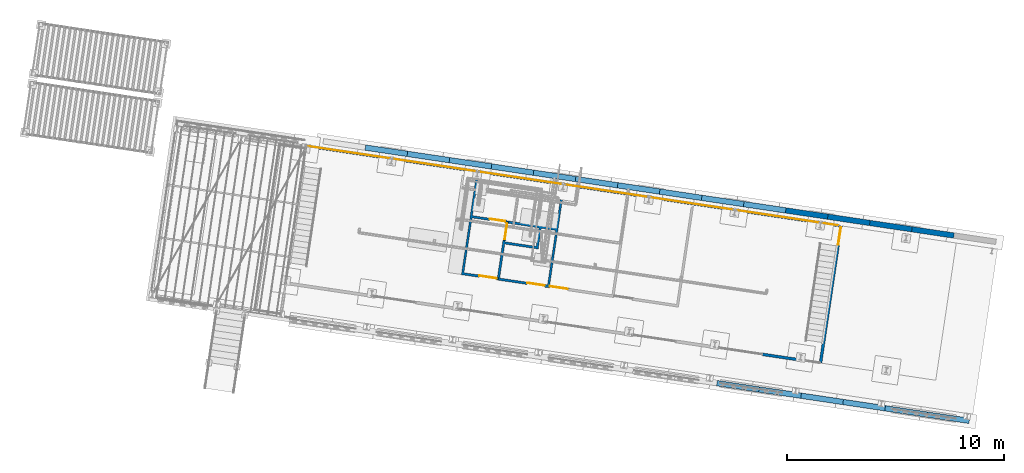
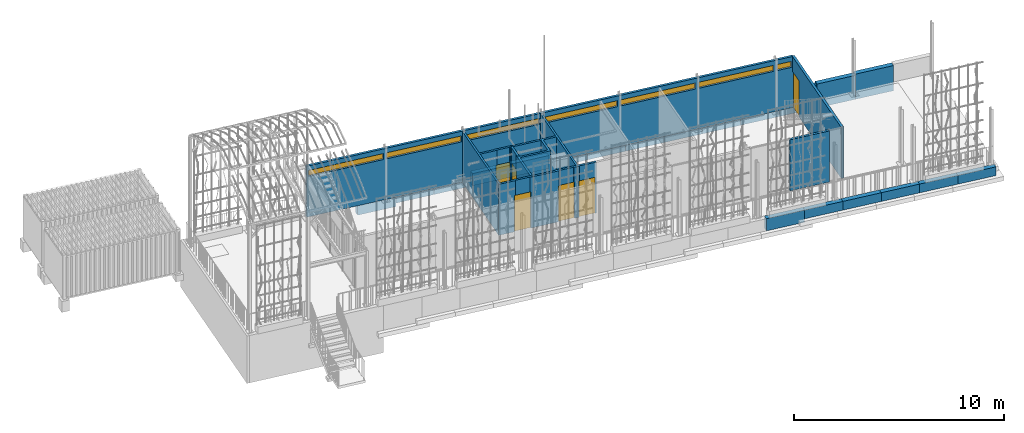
# One storey, part 130 of 142: 25 walls, 7 windows, 6 doors, 16 openings, 1 element without a shape of its own.
"""IFC4 building model written with IfcOpenShell, lengths in metres."""

from ifc_helpers import new_model, si_unit, direction, frame, origin_with_axes, place, context, subcontext, project, spatial, polyline, outline, extrude, material, layer, layer_set, constituent, constituent_set, element, fill, aggregate, save


model = new_model("IFC4")

# Units and contexts
model_context = context("Model", 3, precision=1e-05, world=origin_with_axes(), true_north=direction((0.0, 1.0)))
body_context = subcontext(model_context, "Body", "Model", "MODEL_VIEW")
ifc_project = project(units=[si_unit("VOLUMEUNIT", "CUBIC_METRE"), si_unit("LENGTHUNIT", "METRE"), si_unit("AREAUNIT", "SQUARE_METRE")], contexts=[model_context])

# Site, building, storey
site_placement = place(None, origin_with_axes())
site = spatial("IfcSite", under=ifc_project, at=site_placement, Name="Lares · Rua das Mercês · artigo 4771")
building_placement = place(site_placement, frame((12.0, 10.2, 13.9), z_axis=(0.0, 0.0, 1.0), x_axis=(0.989015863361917, -0.147809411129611, 0.0)))
building = spatial("IfcBuilding", under=site, at=building_placement, Name="Casa Sobreposta")
storey_placement = place(building_placement, origin_with_axes())
storey = spatial("IfcBuildingStorey", under=building, at=storey_placement, Name="00 · Habitação e estacionamento", Elevation=13.9)

# Wall, openings, doors
ifc_material_1 = material(Name="OSB", Category="wood")
ifc_constituent_1 = constituent(ifc_material_1, Name="osb")
ifc_material_2 = material(Name="Lã mineral / Mineralwolle 2", Category="mineral wool")
ifc_constituent_2 = constituent(ifc_material_2, Name="wool")
ifc_constituent_set_1 = constituent_set(constituents=[ifc_constituent_1, ifc_constituent_2], Name="OSB22 / lã mineral / OSB22")
wall_1_placement = place(storey_placement, origin_with_axes())
wall_1 = element("IfcWall", 1, at=wall_1_placement, inside=storey, material=ifc_constituent_set_1, Name="Divisória 1 · OSB 22 mm nas duas faces", context=body_context, shape_type="SweptSolid", body=[
    extrude(outline(polyline([(8.05999999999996, 6.27299999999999), (8.05999999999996, 4.35299999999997), (8.80454037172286, 4.35299999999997), (8.80454322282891, 4.37255471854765), (9.67462900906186, 4.37242785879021), (9.67461809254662, 4.29755537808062), (9.74955631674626, 4.29756574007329), (9.74967661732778, 3.42754853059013), (9.63967661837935, 3.4275333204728), (9.63956117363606, 4.26243297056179), (8.90999999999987, 4.26253934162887), (8.90999999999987, 4.24299999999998), (8.05999999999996, 4.24299999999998), (8.05999999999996, 1.68999999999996), (8.70456930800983, 1.68999999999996), (8.70457262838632, 1.71008556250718), (9.6746647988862, 1.70992519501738), (9.67464661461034, 1.59992519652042), (8.80999999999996, 1.60006813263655), (8.80999999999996, 1.57999999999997), (7.96000000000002, 1.57999999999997), (7.96000000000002, 6.27299999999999), (8.05999999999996, 6.27299999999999)]), holes=[polyline([(7.98200000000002, 1.60199999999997), (8.78799999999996, 1.60199999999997), (8.78799999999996, 1.62207176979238), (9.65265025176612, 1.62192883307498), (9.65266116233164, 1.68792883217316), (8.72656899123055, 1.68808192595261), (8.72656567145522, 1.66799999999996), (8.03799999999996, 1.66799999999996), (8.03799999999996, 4.26499999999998), (8.88799999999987, 4.26499999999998), (8.88799999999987, 4.28454254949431), (9.65261617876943, 4.28443106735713), (9.65262580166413, 4.35043106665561), (8.8265400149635, 4.35055151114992), (8.82653716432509, 4.33099999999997), (8.03799999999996, 4.33099999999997), (8.03799999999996, 6.25099999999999), (7.98200000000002, 6.25099999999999), (7.98200000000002, 1.60199999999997)]), polyline([(9.66167357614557, 3.44953636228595), (9.72767357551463, 3.44954548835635), (9.72755935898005, 4.27556269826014), (9.661559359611, 4.27555357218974), (9.66167357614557, 3.44953636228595)])]), origin_with_axes(), (0.0, 0.0, 1.0), 2.968),
    extrude(outline(polyline([(7.98200000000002, 6.25099999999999), (8.03799999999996, 6.25099999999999), (8.03799999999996, 4.33099999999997), (8.82653716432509, 4.33099999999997), (8.8265400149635, 4.35055151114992), (9.65262580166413, 4.35043106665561), (9.65261617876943, 4.28443106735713), (8.88799999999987, 4.28454254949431), (8.88799999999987, 4.26499999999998), (8.03799999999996, 4.26499999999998), (8.03799999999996, 1.66799999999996), (8.72656567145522, 1.66799999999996), (8.72656899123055, 1.68808192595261), (9.65266116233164, 1.68792883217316), (9.65265025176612, 1.62192883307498), (8.78799999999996, 1.62207176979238), (8.78799999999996, 1.60199999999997), (7.98200000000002, 1.60199999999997), (7.98200000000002, 6.25099999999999)])), origin_with_axes(), (0.0, 0.0, 1.0), 2.968),
    extrude(outline(polyline([(9.661559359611, 4.27555357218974), (9.72755935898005, 4.27556269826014), (9.72767357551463, 3.44954548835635), (9.66167357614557, 3.44953636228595), (9.661559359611, 4.27555357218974)])), origin_with_axes(), (0.0, 0.0, 1.0), 2.968),
])
opening_1_placement = place(wall_1_placement, origin_with_axes())
opening_1 = element("IfcOpeningElement", 2, at=opening_1_placement, cuts=wall_1, PredefinedType="OPENING", context=body_context, shape_type="SweptSolid", body=[
    extrude(outline(polyline([(8.87451187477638, 4.15754451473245), (8.87455853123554, 4.47754451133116), (9.60464431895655, 4.4774380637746), (9.60459766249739, 4.15743806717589), (8.87451187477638, 4.15754451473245)])), origin_with_axes(), (0.0, 0.0, 1.0), 2.1),
])
opening_2_placement = place(wall_1_placement, origin_with_axes())
opening_2 = element("IfcOpeningElement", 3, at=opening_2_placement, cuts=wall_1, PredefinedType="OPENING", context=body_context, shape_type="SweptSolid", body=[
    extrude(outline(polyline([(8.77453708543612, 1.49507399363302), (8.77458998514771, 1.81507398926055), (9.60468215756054, 1.81493676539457), (9.60462925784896, 1.49493676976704), (8.77453708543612, 1.49507399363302)])), origin_with_axes(), (0.0, 0.0, 1.0), 2.1),
])
opening_3_placement = place(wall_1_placement, origin_with_axes())
opening_3 = element("IfcOpeningElement", 4, at=opening_3_placement, cuts=wall_1, PredefinedType="OPENING", context=body_context, shape_type="SweptSolid", body=[
    extrude(outline(polyline([(9.85466693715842, 3.49756304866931), (9.53466694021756, 3.49751880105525), (9.5345659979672, 4.22753601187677), (9.85456599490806, 4.22758025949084), (9.85466693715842, 3.49756304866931)])), origin_with_axes(), (0.0, 0.0, 1.0), 2.1),
])
door_1_placement = place(storey_placement, origin_with_axes())
door_1 = element("IfcDoor", 5, at=door_1_placement, inside=storey, material=ifc_material_1, Name="Porta interior 3", OperationType="SINGLE_SWING_LEFT", OverallHeight=2.1, OverallWidth=0.730085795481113, PredefinedType="DOOR", context=body_context, shape_type="SweptSolid", body=[
    extrude(outline(polyline([(8.87453265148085, 4.30004451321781), (8.87453775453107, 4.3350445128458), (9.60462354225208, 4.33493806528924), (9.60461843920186, 4.29993806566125), (8.87453265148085, 4.30004451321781)])), origin_with_axes(), (0.0, 0.0, 1.0), 2.1),
])
fill(opening_1, door_1)
door_2_placement = place(storey_placement, origin_with_axes())
door_2 = element("IfcDoor", 6, at=door_2_placement, inside=storey, material=ifc_material_1, Name="Porta interior 4", OperationType="SINGLE_SWING_LEFT", OverallHeight=2.1, OverallWidth=0.830092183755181, PredefinedType="DOOR", context=body_context, shape_type="SweptSolid", body=[
    extrude(outline(polyline([(8.77456064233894, 1.6375739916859), (8.7745664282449, 1.67257399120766), (9.60465860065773, 1.67243676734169), (9.60465281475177, 1.63743676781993), (8.77456064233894, 1.6375739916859)])), origin_with_axes(), (0.0, 0.0, 1.0), 2.1),
])
fill(opening_2, door_2)
door_3_placement = place(storey_placement, origin_with_axes())
door_3 = element("IfcDoor", 7, at=door_3_placement, inside=storey, material=ifc_material_1, Name="Porta interior 6", OperationType="SINGLE_SWING_LEFT", OverallHeight=2.1, OverallWidth=0.730017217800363, PredefinedType="DOOR", context=body_context, shape_type="SweptSolid", body=[
    extrude(outline(polyline([(9.71216693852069, 3.49754334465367), (9.67716693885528, 3.49753850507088), (9.67706599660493, 4.22755571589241), (9.71206599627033, 4.2275605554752), (9.71216693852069, 3.49754334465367)])), origin_with_axes(), (0.0, 0.0, 1.0), 2.1),
])
fill(opening_3, door_3)

ifc_constituent_3 = constituent(ifc_material_1, Name="osb")
ifc_constituent_4 = constituent(ifc_material_2, Name="wool")
ifc_constituent_set_2 = constituent_set(constituents=[ifc_constituent_3, ifc_constituent_4], Name="OSB22 / lã mineral / OSB22")
wall_2_placement = place(storey_placement, origin_with_axes())
wall_2 = element("IfcWall", 8, at=wall_2_placement, inside=storey, material=ifc_constituent_set_2, Name="Divisória 2 · OSB 22 mm nas duas faces", context=body_context, shape_type="SweptSolid", body=[
    extrude(outline(polyline([(9.72999999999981, 3.383), (11.1799999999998, 3.383), (11.1799999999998, 4.24299999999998), (9.72999999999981, 4.24299999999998), (9.72999999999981, 4.19299999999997), (9.61999999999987, 4.19299999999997), (9.61999999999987, 4.24299999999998), (9.56999999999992, 4.24299999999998), (9.56999999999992, 4.35299999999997), (11.96, 4.35299999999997), (11.96, 6.27299999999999), (12.06, 6.27299999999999), (12.06, 1.70993390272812), (12.9746138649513, 1.7100856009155), (12.974632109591, 1.60008560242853), (12.1099999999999, 1.59994219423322), (12.1099999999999, 1.57999999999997), (11.8099999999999, 1.57999999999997), (11.8099999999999, 1.59995696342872), (11.05, 1.60006879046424), (11.05, 1.57999999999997), (9.56999999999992, 1.57999999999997), (9.56999999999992, 1.68999999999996), (9.61999999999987, 1.68999999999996), (9.61999999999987, 3.53299999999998), (9.72999999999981, 3.53299999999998), (9.72999999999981, 3.383)]), holes=[polyline([(9.64199999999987, 3.51099999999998), (9.64199999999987, 1.66799999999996), (9.59199999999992, 1.66799999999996), (9.59199999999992, 1.60199999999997), (11.028, 1.60199999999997), (11.028, 1.62207202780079), (11.8319999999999, 1.62195372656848), (11.8319999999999, 1.60199999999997), (12.0879999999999, 1.60199999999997), (12.0879999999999, 1.62193854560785), (12.9526284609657, 1.62208195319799), (12.9526175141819, 1.68808195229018), (12.038, 1.68793025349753), (12.038, 6.25099999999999), (11.982, 6.25099999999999), (11.982, 4.33099999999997), (9.59199999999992, 4.33099999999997), (9.59199999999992, 4.26499999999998), (9.64199999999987, 4.26499999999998), (9.64199999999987, 4.21499999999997), (9.70799999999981, 4.21499999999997), (9.70799999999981, 4.26499999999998), (11.2019999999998, 4.26499999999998), (11.2019999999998, 3.361), (9.70799999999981, 3.361), (9.70799999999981, 3.51099999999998), (9.64199999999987, 3.51099999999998)])]), origin_with_axes(), (0.0, 0.0, 1.0), 2.968),
    extrude(outline(polyline([(10.9666589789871, 1.66799999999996), (9.70799999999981, 1.66799999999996), (9.70799999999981, 3.29500000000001), (11.268, 3.29500000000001), (11.268, 4.26499999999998), (11.982, 4.26499999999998), (11.982, 1.66799999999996), (11.892736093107, 1.66799999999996), (11.8927390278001, 1.68794479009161), (10.9666619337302, 1.68808105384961), (10.9666589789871, 1.66799999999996)]), holes=[polyline([(11.96, 4.24299999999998), (11.29, 4.24299999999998), (11.29, 3.27300000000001), (9.72999999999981, 3.27300000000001), (9.72999999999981, 1.68999999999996), (10.9446622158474, 1.68999999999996), (10.9446651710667, 1.71008429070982), (11.9147422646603, 1.70994155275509), (11.9147393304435, 1.68999999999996), (11.96, 1.68999999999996), (11.96, 4.24299999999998)])]), origin_with_axes(), (0.0, 0.0, 1.0), 2.968),
    extrude(outline(polyline([(9.70799999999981, 3.51099999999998), (9.70799999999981, 3.361), (11.2019999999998, 3.361), (11.2019999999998, 4.26499999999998), (9.70799999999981, 4.26499999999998), (9.70799999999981, 4.21499999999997), (9.64199999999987, 4.21499999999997), (9.64199999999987, 4.26499999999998), (9.59199999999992, 4.26499999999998), (9.59199999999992, 4.33099999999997), (11.982, 4.33099999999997), (11.982, 6.25099999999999), (12.038, 6.25099999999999), (12.038, 1.68793025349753), (12.9526175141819, 1.68808195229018), (12.9526284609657, 1.62208195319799), (12.0879999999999, 1.62193854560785), (12.0879999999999, 1.60199999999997), (11.8319999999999, 1.60199999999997), (11.8319999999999, 1.62195372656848), (11.028, 1.62207202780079), (11.028, 1.60199999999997), (9.59199999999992, 1.60199999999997), (9.59199999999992, 1.66799999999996), (9.64199999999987, 1.66799999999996), (9.64199999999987, 3.51099999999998), (9.70799999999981, 3.51099999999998)]), holes=[polyline([(10.9666619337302, 1.68808105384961), (11.8927390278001, 1.68794479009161), (11.892736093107, 1.66799999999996), (11.982, 1.66799999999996), (11.982, 4.26499999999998), (11.268, 4.26499999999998), (11.268, 3.29500000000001), (9.70799999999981, 3.29500000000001), (9.70799999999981, 1.66799999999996), (10.9666589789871, 1.66799999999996), (10.9666619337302, 1.68808105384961)])]), origin_with_axes(), (0.0, 0.0, 1.0), 2.968),
])
opening_4_placement = place(wall_2_placement, origin_with_axes())
opening_4 = element("IfcOpeningElement", 9, at=opening_4_placement, cuts=wall_2, PredefinedType="OPENING", context=body_context, shape_type="SweptSolid", body=[
    extrude(outline(polyline([(12.9045964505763, 1.81507398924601), (12.9046495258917, 1.49507399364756), (12.0745568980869, 1.49493631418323), (12.0745038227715, 1.81493630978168), (12.9045964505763, 1.81507398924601)])), origin_with_axes(), (0.0, 0.0, 1.0), 2.1),
])
opening_5_placement = place(wall_2_placement, origin_with_axes())
element("IfcOpeningElement", 10, at=opening_5_placement, cuts=wall_2, PredefinedType="OPENING", context=body_context, shape_type="SweptSolid", body=[
    extrude(outline(polyline([(8.87451187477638, 4.15754451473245), (8.87455853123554, 4.47754451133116), (9.60464431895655, 4.4774380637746), (9.60459766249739, 4.15743806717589), (8.87451187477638, 4.15754451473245)])), origin_with_axes(), (0.0, 0.0, 1.0), 2.1),
])
opening_6_placement = place(wall_2_placement, origin_with_axes())
element("IfcOpeningElement", 11, at=opening_6_placement, cuts=wall_2, PredefinedType="OPENING", context=body_context, shape_type="SweptSolid", body=[
    extrude(outline(polyline([(8.77453708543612, 1.49507399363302), (8.77458998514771, 1.81507398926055), (9.60468215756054, 1.81493676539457), (9.60462925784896, 1.49493676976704), (8.77453708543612, 1.49507399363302)])), origin_with_axes(), (0.0, 0.0, 1.0), 2.1),
])
opening_7_placement = place(wall_2_placement, origin_with_axes())
opening_7 = element("IfcOpeningElement", 12, at=opening_7_placement, cuts=wall_2, Name="Vão porta interior 5.1", PredefinedType="OPENING", context=body_context, shape_type="SweptSolid", body=[
    extrude(outline(polyline([(11.0146335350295, 1.49507399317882), (11.0146806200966, 1.81507398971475), (11.8447577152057, 1.81495185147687), (11.8447106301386, 1.49495185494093), (11.0146335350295, 1.49507399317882)])), origin_with_axes(), (0.0, 0.0, 1.0), 2.1),
])
opening_8_placement = place(wall_2_placement, origin_with_axes())
element("IfcOpeningElement", 13, at=opening_8_placement, cuts=wall_2, PredefinedType="OPENING", context=body_context, shape_type="SweptSolid", body=[
    extrude(outline(polyline([(9.85466693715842, 3.49756304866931), (9.53466694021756, 3.49751880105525), (9.5345659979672, 4.22753601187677), (9.85456599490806, 4.22758025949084), (9.85466693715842, 3.49756304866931)])), origin_with_axes(), (0.0, 0.0, 1.0), 2.1),
])
door_4_placement = place(storey_placement, origin_with_axes())
door_4 = element("IfcDoor", 14, at=door_4_placement, inside=storey, material=ifc_material_1, Name="Porta interior 2", OperationType="SINGLE_SWING_LEFT", OverallHeight=2.1, OverallWidth=0.830092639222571, PredefinedType="DOOR", context=body_context, shape_type="SweptSolid", body=[
    extrude(outline(polyline([(12.9046200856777, 1.67257399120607), (12.9046258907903, 1.63757399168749), (12.0745332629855, 1.63743631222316), (12.0745274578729, 1.67243631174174), (12.9046200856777, 1.67257399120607)])), origin_with_axes(), (0.0, 0.0, 1.0), 2.1),
])
fill(opening_4, door_4)
door_5_placement = place(storey_placement, origin_with_axes())
door_5 = element("IfcDoor", 15, at=door_5_placement, inside=storey, material=ifc_material_1, Name="Porta interior 5", OperationType="SINGLE_SWING_LEFT", OverallHeight=2.1, OverallWidth=0.830077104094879, PredefinedType="DOOR", context=body_context, shape_type="SweptSolid", body=[
    extrude(outline(polyline([(11.0146545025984, 1.63757399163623), (11.0146596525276, 1.67257399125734), (11.8447367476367, 1.67245185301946), (11.8447315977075, 1.63745185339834), (11.0146545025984, 1.63757399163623)])), origin_with_axes(), (0.0, 0.0, 1.0), 2.1),
])
fill(opening_7, door_5)

# Wall, openings, windows
ifc_material_3 = material(Name="Aço pintado / Stahl lackiert", Category="steel")
ifc_layer_1 = layer(ifc_material_3, 0.005, Name="steel")
ifc_layer_2 = layer(ifc_material_2, 0.12, Name="wool")
ifc_layer_3 = layer(ifc_material_3, 0.00516, Name="steel")
ifc_layer_set_1 = layer_set([ifc_layer_1, ifc_layer_2, ifc_layer_3], Name="Casa DFL sandwich · 130.16 mm")
wall_3_placement = place(storey_placement, origin_with_axes())
wall_3 = element("IfcWall", 16, at=wall_3_placement, inside=storey, material=ifc_layer_set_1, Name="Fachada norte · sandwich Casa DFL", context=body_context, shape_type="SweptSolid", body=[
    extrude(outline(polyline([(24.92, 6.46508), (24.92, 6.33492), (0.0, 6.33492), (0.0, 6.46508), (24.92, 6.46508)])), origin_with_axes(), (0.0, 0.0, 1.0), 2.968),
])
opening_9_placement = place(wall_3_placement, frame((0.0, 0.0, 2.35), z_axis=(0.0, 0.0, 1.0), x_axis=(1.0, 0.0, 0.0)))
opening_9 = element("IfcOpeningElement", 17, at=opening_9_placement, cuts=wall_3, Name="Vão rasgo norte 1", PredefinedType="OPENING", context=body_context, shape_type="SweptSolid", body=[
    extrude(outline(polyline([(3.92, 6.6), (3.92, 6.2), (0.08, 6.2), (0.08, 6.6), (3.92, 6.6)])), origin_with_axes(), (0.0, 0.0, 1.0), 0.35),
])
opening_10_placement = place(wall_3_placement, frame((0.0, 0.0, 2.35), z_axis=(0.0, 0.0, 1.0), x_axis=(1.0, 0.0, 0.0)))
opening_10 = element("IfcOpeningElement", 18, at=opening_10_placement, cuts=wall_3, Name="Vão rasgo norte 2", PredefinedType="OPENING", context=body_context, shape_type="SweptSolid", body=[
    extrude(outline(polyline([(7.92, 6.6), (7.92, 6.2), (4.08, 6.2), (4.08, 6.6), (7.92, 6.6)])), origin_with_axes(), (0.0, 0.0, 1.0), 0.35),
])
opening_11_placement = place(wall_3_placement, frame((0.0, 0.0, 2.35), z_axis=(0.0, 0.0, 1.0), x_axis=(1.0, 0.0, 0.0)))
opening_11 = element("IfcOpeningElement", 19, at=opening_11_placement, cuts=wall_3, Name="Vão rasgo norte 3", PredefinedType="OPENING", context=body_context, shape_type="SweptSolid", body=[
    extrude(outline(polyline([(11.92, 6.6), (11.92, 6.2), (8.08, 6.2), (8.08, 6.6), (11.92, 6.6)])), origin_with_axes(), (0.0, 0.0, 1.0), 0.35),
])
opening_12_placement = place(wall_3_placement, frame((0.0, 0.0, 2.35), z_axis=(0.0, 0.0, 1.0), x_axis=(1.0, 0.0, 0.0)))
opening_12 = element("IfcOpeningElement", 20, at=opening_12_placement, cuts=wall_3, Name="Vão rasgo norte 4", PredefinedType="OPENING", context=body_context, shape_type="SweptSolid", body=[
    extrude(outline(polyline([(15.92, 6.6), (15.92, 6.2), (12.08, 6.2), (12.08, 6.6), (15.92, 6.6)])), origin_with_axes(), (0.0, 0.0, 1.0), 0.35),
])
opening_13_placement = place(wall_3_placement, frame((0.0, 0.0, 2.35), z_axis=(0.0, 0.0, 1.0), x_axis=(1.0, 0.0, 0.0)))
opening_13 = element("IfcOpeningElement", 21, at=opening_13_placement, cuts=wall_3, Name="Vão rasgo norte 5", PredefinedType="OPENING", context=body_context, shape_type="SweptSolid", body=[
    extrude(outline(polyline([(19.92, 6.6), (19.92, 6.2), (16.08, 6.2), (16.08, 6.6), (19.92, 6.6)])), origin_with_axes(), (0.0, 0.0, 1.0), 0.35),
])
opening_14_placement = place(wall_3_placement, frame((0.0, 0.0, 2.35), z_axis=(0.0, 0.0, 1.0), x_axis=(1.0, 0.0, 0.0)))
opening_14 = element("IfcOpeningElement", 22, at=opening_14_placement, cuts=wall_3, Name="Vão rasgo norte 6", PredefinedType="OPENING", context=body_context, shape_type="SweptSolid", body=[
    extrude(outline(polyline([(23.92, 6.6), (23.92, 6.2), (20.08, 6.2), (20.08, 6.6), (23.92, 6.6)])), origin_with_axes(), (0.0, 0.0, 1.0), 0.35),
])
opening_15_placement = place(wall_3_placement, frame((0.0, 0.0, 2.35), z_axis=(0.0, 0.0, 1.0), x_axis=(1.0, 0.0, 0.0)))
opening_15 = element("IfcOpeningElement", 23, at=opening_15_placement, cuts=wall_3, Name="Vão rasgo norte 7", PredefinedType="OPENING", context=body_context, shape_type="SweptSolid", body=[
    extrude(outline(polyline([(24.84, 6.6), (24.84, 6.2), (24.08, 6.2), (24.08, 6.6), (24.84, 6.6)])), origin_with_axes(), (0.0, 0.0, 1.0), 0.35),
])
ifc_material_4 = material(Name="Vidro / Normalglas", Category="glass")
window_1_placement = place(storey_placement, frame((0.0, 0.0, 2.375), z_axis=(0.0, 0.0, 1.0), x_axis=(1.0, 0.0, 0.0)))
window_1 = element("IfcWindow", 24, at=window_1_placement, inside=storey, material=ifc_material_4, Name="Rasgo norte 1", OverallHeight=0.3, OverallWidth=3.79, PartitioningType="SINGLE_PANEL", PredefinedType="WINDOW", context=body_context, shape_type="SweptSolid", body=[
    extrude(outline(polyline([(3.895, 6.404), (3.895, 6.396), (0.105, 6.396), (0.105, 6.404), (3.895, 6.404)])), origin_with_axes(), (0.0, 0.0, 1.0), 0.3),
])
fill(opening_9, window_1)
window_2_placement = place(storey_placement, frame((0.0, 0.0, 2.375), z_axis=(0.0, 0.0, 1.0), x_axis=(1.0, 0.0, 0.0)))
window_2 = element("IfcWindow", 25, at=window_2_placement, inside=storey, material=ifc_material_4, Name="Rasgo norte 2", OverallHeight=0.3, OverallWidth=3.79, PartitioningType="SINGLE_PANEL", PredefinedType="WINDOW", context=body_context, shape_type="SweptSolid", body=[
    extrude(outline(polyline([(7.895, 6.404), (7.895, 6.396), (4.105, 6.396), (4.105, 6.404), (7.895, 6.404)])), origin_with_axes(), (0.0, 0.0, 1.0), 0.3),
])
fill(opening_10, window_2)
window_3_placement = place(storey_placement, frame((0.0, 0.0, 2.375), z_axis=(0.0, 0.0, 1.0), x_axis=(1.0, 0.0, 0.0)))
window_3 = element("IfcWindow", 26, at=window_3_placement, inside=storey, material=ifc_material_4, Name="Rasgo norte 3", OverallHeight=0.3, OverallWidth=3.79, PartitioningType="SINGLE_PANEL", PredefinedType="WINDOW", context=body_context, shape_type="SweptSolid", body=[
    extrude(outline(polyline([(11.895, 6.404), (11.895, 6.396), (8.105, 6.396), (8.105, 6.404), (11.895, 6.404)])), origin_with_axes(), (0.0, 0.0, 1.0), 0.3),
])
fill(opening_11, window_3)
window_4_placement = place(storey_placement, frame((0.0, 0.0, 2.375), z_axis=(0.0, 0.0, 1.0), x_axis=(1.0, 0.0, 0.0)))
window_4 = element("IfcWindow", 27, at=window_4_placement, inside=storey, material=ifc_material_4, Name="Rasgo norte 4", OverallHeight=0.3, OverallWidth=3.79, PartitioningType="SINGLE_PANEL", PredefinedType="WINDOW", context=body_context, shape_type="SweptSolid", body=[
    extrude(outline(polyline([(15.895, 6.404), (15.895, 6.396), (12.105, 6.396), (12.105, 6.404), (15.895, 6.404)])), origin_with_axes(), (0.0, 0.0, 1.0), 0.3),
])
fill(opening_12, window_4)
window_5_placement = place(storey_placement, frame((0.0, 0.0, 2.375), z_axis=(0.0, 0.0, 1.0), x_axis=(1.0, 0.0, 0.0)))
window_5 = element("IfcWindow", 28, at=window_5_placement, inside=storey, material=ifc_material_4, Name="Rasgo norte 5", OverallHeight=0.3, OverallWidth=3.79, PartitioningType="SINGLE_PANEL", PredefinedType="WINDOW", context=body_context, shape_type="SweptSolid", body=[
    extrude(outline(polyline([(19.895, 6.404), (19.895, 6.396), (16.105, 6.396), (16.105, 6.404), (19.895, 6.404)])), origin_with_axes(), (0.0, 0.0, 1.0), 0.3),
])
fill(opening_13, window_5)
window_6_placement = place(storey_placement, frame((0.0, 0.0, 2.375), z_axis=(0.0, 0.0, 1.0), x_axis=(1.0, 0.0, 0.0)))
window_6 = element("IfcWindow", 29, at=window_6_placement, inside=storey, material=ifc_material_4, Name="Rasgo norte 6", OverallHeight=0.3, OverallWidth=3.79, PartitioningType="SINGLE_PANEL", PredefinedType="WINDOW", context=body_context, shape_type="SweptSolid", body=[
    extrude(outline(polyline([(23.895, 6.404), (23.895, 6.396), (20.105, 6.396), (20.105, 6.404), (23.895, 6.404)])), origin_with_axes(), (0.0, 0.0, 1.0), 0.3),
])
fill(opening_14, window_6)
window_7_placement = place(storey_placement, frame((0.0, 0.0, 2.375), z_axis=(0.0, 0.0, 1.0), x_axis=(1.0, 0.0, 0.0)))
window_7 = element("IfcWindow", 30, at=window_7_placement, inside=storey, material=ifc_material_4, Name="Rasgo norte 7", OverallHeight=0.3, OverallWidth=0.710000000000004, PartitioningType="SINGLE_PANEL", PredefinedType="WINDOW", context=body_context, shape_type="SweptSolid", body=[
    extrude(outline(polyline([(24.815, 6.404), (24.815, 6.396), (24.105, 6.396), (24.105, 6.404), (24.815, 6.404)])), origin_with_axes(), (0.0, 0.0, 1.0), 0.3),
])
fill(opening_15, window_7)

# Wall, opening, door
ifc_layer_4 = layer(ifc_material_3, 0.005, Name="steel")
ifc_layer_5 = layer(ifc_material_2, 0.12, Name="wool")
ifc_layer_6 = layer(ifc_material_3, 0.00516, Name="steel")
ifc_layer_set_2 = layer_set([ifc_layer_4, ifc_layer_5, ifc_layer_6], Name="Casa DFL sandwich · 130.16 mm")
wall_4_placement = place(storey_placement, origin_with_axes())
wall_4 = element("IfcWall", 31, at=wall_4_placement, inside=storey, material=ifc_layer_set_2, Name="Separação do estacionamento", context=body_context, shape_type="SweptSolid", body=[
    extrude(outline(polyline([(24.87992, 6.4), (25.01008, 6.4), (25.01008, 0.0), (24.87992, 0.0), (24.87992, 6.4)])), origin_with_axes(), (0.0, 0.0, 1.0), 2.968),
])
opening_16_placement = place(wall_4_placement, origin_with_axes())
opening_16 = element("IfcOpeningElement", 32, at=opening_16_placement, cuts=wall_4, Name="Vão de acesso do estacionamento", PredefinedType="OPENING", context=body_context, shape_type="SweptSolid", body=[
    extrude(outline(polyline([(24.745, 6.34), (25.145, 6.34), (25.145, 5.51), (24.745, 5.51), (24.745, 6.34)])), origin_with_axes(), (0.0, 0.0, 1.0), 2.1),
])
door_6_placement = place(storey_placement, origin_with_axes())
door_6 = element("IfcDoor", 33, at=door_6_placement, inside=storey, material=ifc_material_3, Name="Porta do estacionamento", OperationType="SINGLE_SWING_LEFT", OverallHeight=2.1, OverallWidth=0.83, PredefinedType="DOOR", context=body_context, shape_type="SweptSolid", body=[
    extrude(outline(polyline([(24.925, 6.34), (24.965, 6.34), (24.965, 5.51), (24.925, 5.51), (24.925, 6.34)])), origin_with_axes(), (0.0, 0.0, 1.0), 2.1),
])
fill(opening_16, door_6)

# Wall
ifc_layer_7 = layer(ifc_material_3, 0.005, Name="steel")
ifc_layer_8 = layer(ifc_material_2, 0.12, Name="wool")
ifc_layer_9 = layer(ifc_material_3, 0.00516, Name="steel")
ifc_layer_set_3 = layer_set([ifc_layer_7, ifc_layer_8, ifc_layer_9], Name="Casa DFL sandwich · 130.16 mm")
wall_5_placement = place(storey_placement, origin_with_axes())
element("IfcWall", 34, at=wall_5_placement, inside=storey, material=ifc_layer_set_3, Name="Painel opaco sul 11", context=body_context, shape_type="SweptSolid", body=[
    extrude(outline(polyline([(24.256, 0.06508), (24.256, -0.06508), (22.2346666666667, -0.06508), (22.2346666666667, 0.06508), (24.256, 0.06508)])), origin_with_axes(), (0.0, 0.0, 1.0), 2.968),
])

# Assembly, walls
assembly_placement = place(storey_placement, origin_with_axes())
assembly = element("IfcElementAssembly", 35, at=assembly_placement, inside=storey, Name="Pódio · projeção da estufa e cisterna", ObjectType="CISTERN_PODIUM", PredefinedType="USERDEFINED")
ifc_material_5 = material(Name="Betão armado / Stahlbeton", Category="concrete")
wall_6_placement = place(assembly_placement, frame((0.0, 0.0, -0.75), z_axis=(0.0, 0.0, 1.0), x_axis=(1.0, 0.0, 0.0)))
wall_6 = element("IfcWall", 36, at=wall_6_placement, material=ifc_material_5, Name="Pódio · contenção sul", ObjectType="Pódio · contenção sul", PredefinedType="USERDEFINED", context=body_context, shape_type="SweptSolid", body=[
    extrude(outline(polyline([(22.3203125, -1.5), (22.3203125, -1.75), (20.359375, -1.75), (20.359375, -1.5), (22.3203125, -1.5)])), origin_with_axes(), (0.0, 0.0, 1.0), 0.71),
])
wall_7_placement = place(assembly_placement, frame((0.0, 0.0, -0.55), z_axis=(0.0, 0.0, 1.0), x_axis=(1.0, 0.0, 0.0)))
wall_7 = element("IfcWall", 37, at=wall_7_placement, material=ifc_material_5, Name="Pódio · contenção sul", ObjectType="Pódio · contenção sul", PredefinedType="USERDEFINED", context=body_context, shape_type="SweptSolid", body=[
    extrude(outline(polyline([(24.28125, -1.5), (24.28125, -1.75), (22.3203125, -1.75), (22.3203125, -1.5), (24.28125, -1.5)])), origin_with_axes(), (0.0, 0.0, 1.0), 0.51),
])
wall_8_placement = place(assembly_placement, frame((0.0, 0.0, -0.55), z_axis=(0.0, 0.0, 1.0), x_axis=(1.0, 0.0, 0.0)))
wall_8 = element("IfcWall", 38, at=wall_8_placement, material=ifc_material_5, Name="Pódio · contenção sul", ObjectType="Pódio · contenção sul", PredefinedType="USERDEFINED", context=body_context, shape_type="SweptSolid", body=[
    extrude(outline(polyline([(26.2421875, -1.5), (26.2421875, -1.75), (24.28125, -1.75), (24.28125, -1.5), (26.2421875, -1.5)])), origin_with_axes(), (0.0, 0.0, 1.0), 0.51),
])
wall_9_placement = place(assembly_placement, frame((0.0, 0.0, -0.55), z_axis=(0.0, 0.0, 1.0), x_axis=(1.0, 0.0, 0.0)))
wall_9 = element("IfcWall", 39, at=wall_9_placement, material=ifc_material_5, Name="Pódio · contenção sul", ObjectType="Pódio · contenção sul", PredefinedType="USERDEFINED", context=body_context, shape_type="SweptSolid", body=[
    extrude(outline(polyline([(28.203125, -1.5), (28.203125, -1.75), (26.2421875, -1.75), (26.2421875, -1.5), (28.203125, -1.5)])), origin_with_axes(), (0.0, 0.0, 1.0), 0.51),
])
wall_10_placement = place(assembly_placement, frame((0.0, 0.0, -0.55), z_axis=(0.0, 0.0, 1.0), x_axis=(1.0, 0.0, 0.0)))
wall_10 = element("IfcWall", 40, at=wall_10_placement, material=ifc_material_5, Name="Pódio · contenção sul", ObjectType="Pódio · contenção sul", PredefinedType="USERDEFINED", context=body_context, shape_type="SweptSolid", body=[
    extrude(outline(polyline([(30.1640625, -1.5), (30.1640625, -1.75), (28.203125, -1.75), (28.203125, -1.5), (30.1640625, -1.5)])), origin_with_axes(), (0.0, 0.0, 1.0), 0.51),
])
wall_11_placement = place(assembly_placement, frame((0.0, 0.0, -0.55), z_axis=(0.0, 0.0, 1.0), x_axis=(1.0, 0.0, 0.0)))
wall_11 = element("IfcWall", 41, at=wall_11_placement, material=ifc_material_5, Name="Pódio · contenção sul", ObjectType="Pódio · contenção sul", PredefinedType="USERDEFINED", context=body_context, shape_type="SweptSolid", body=[
    extrude(outline(polyline([(32.125, -1.5), (32.125, -1.75), (30.1640625, -1.75), (30.1640625, -1.5), (32.125, -1.5)])), origin_with_axes(), (0.0, 0.0, 1.0), 0.51),
])
wall_12_placement = place(assembly_placement, frame((0.0, 0.0, -0.75), z_axis=(0.0, 0.0, 1.0), x_axis=(1.0, 0.0, 0.0)))
wall_12 = element("IfcWall", 42, at=wall_12_placement, material=ifc_material_5, Name="Pódio · contenção norte", ObjectType="Pódio · contenção norte", PredefinedType="USERDEFINED", context=body_context, shape_type="SweptSolid", body=[
    extrude(outline(polyline([(4.671875, 6.85), (4.671875, 6.6), (2.7109375, 6.6), (2.7109375, 6.85), (4.671875, 6.85)])), origin_with_axes(), (0.0, 0.0, 1.0), 0.71),
])
wall_13_placement = place(assembly_placement, frame((0.0, 0.0, -0.55), z_axis=(0.0, 0.0, 1.0), x_axis=(1.0, 0.0, 0.0)))
wall_13 = element("IfcWall", 43, at=wall_13_placement, material=ifc_material_5, Name="Pódio · contenção norte", ObjectType="Pódio · contenção norte", PredefinedType="USERDEFINED", context=body_context, shape_type="SweptSolid", body=[
    extrude(outline(polyline([(6.6328125, 6.85), (6.6328125, 6.6), (4.671875, 6.6), (4.671875, 6.85), (6.6328125, 6.85)])), origin_with_axes(), (0.0, 0.0, 1.0), 0.568235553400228),
])
wall_14_placement = place(assembly_placement, frame((0.0, 0.0, -0.55), z_axis=(0.0, 0.0, 1.0), x_axis=(1.0, 0.0, 0.0)))
wall_14 = element("IfcWall", 44, at=wall_14_placement, material=ifc_material_5, Name="Pódio · contenção norte", ObjectType="Pódio · contenção norte", PredefinedType="USERDEFINED", context=body_context, shape_type="SweptSolid", body=[
    extrude(outline(polyline([(8.59375, 6.85), (8.59375, 6.6), (6.6328125, 6.6), (6.6328125, 6.85), (8.59375, 6.85)])), origin_with_axes(), (0.0, 0.0, 1.0), 0.639298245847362),
])
wall_15_placement = place(assembly_placement, frame((0.0, 0.0, -0.55), z_axis=(0.0, 0.0, 1.0), x_axis=(1.0, 0.0, 0.0)))
wall_15 = element("IfcWall", 45, at=wall_15_placement, material=ifc_material_5, Name="Pódio · contenção norte", ObjectType="Pódio · contenção norte", PredefinedType="USERDEFINED", context=body_context, shape_type="SweptSolid", body=[
    extrude(outline(polyline([(10.5546875, 6.85), (10.5546875, 6.6), (8.59375, 6.6), (8.59375, 6.85), (10.5546875, 6.85)])), origin_with_axes(), (0.0, 0.0, 1.0), 0.710360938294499),
])
wall_16_placement = place(assembly_placement, frame((0.0, 0.0, -0.55), z_axis=(0.0, 0.0, 1.0), x_axis=(1.0, 0.0, 0.0)))
wall_16 = element("IfcWall", 46, at=wall_16_placement, material=ifc_material_5, Name="Pódio · contenção norte", ObjectType="Pódio · contenção norte", PredefinedType="USERDEFINED", context=body_context, shape_type="SweptSolid", body=[
    extrude(outline(polyline([(12.515625, 6.85), (12.515625, 6.6), (10.5546875, 6.6), (10.5546875, 6.85), (12.515625, 6.85)])), origin_with_axes(), (0.0, 0.0, 1.0), 0.758692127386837),
])
wall_17_placement = place(assembly_placement, frame((0.0, 0.0, -0.55), z_axis=(0.0, 0.0, 1.0), x_axis=(1.0, 0.0, 0.0)))
wall_17 = element("IfcWall", 47, at=wall_17_placement, material=ifc_material_5, Name="Pódio · contenção norte", ObjectType="Pódio · contenção norte", PredefinedType="USERDEFINED", context=body_context, shape_type="SweptSolid", body=[
    extrude(outline(polyline([(14.4765625, 6.85), (14.4765625, 6.6), (12.515625, 6.6), (12.515625, 6.85), (14.4765625, 6.85)])), origin_with_axes(), (0.0, 0.0, 1.0), 0.843611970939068),
])
wall_18_placement = place(assembly_placement, frame((0.0, 0.0, -0.55), z_axis=(0.0, 0.0, 1.0), x_axis=(1.0, 0.0, 0.0)))
wall_18 = element("IfcWall", 48, at=wall_18_placement, material=ifc_material_5, Name="Pódio · contenção norte", ObjectType="Pódio · contenção norte", PredefinedType="USERDEFINED", context=body_context, shape_type="SweptSolid", body=[
    extrude(outline(polyline([(16.4375, 6.85), (16.4375, 6.6), (14.4765625, 6.6), (14.4765625, 6.85), (16.4375, 6.85)])), origin_with_axes(), (0.0, 0.0, 1.0), 0.922383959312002),
])
wall_19_placement = place(assembly_placement, frame((0.0, 0.0, -0.55), z_axis=(0.0, 0.0, 1.0), x_axis=(1.0, 0.0, 0.0)))
wall_19 = element("IfcWall", 49, at=wall_19_placement, material=ifc_material_5, Name="Pódio · contenção norte", ObjectType="Pódio · contenção norte", PredefinedType="USERDEFINED", context=body_context, shape_type="SweptSolid", body=[
    extrude(outline(polyline([(18.3984375, 6.85), (18.3984375, 6.6), (16.4375, 6.6), (16.4375, 6.85), (18.3984375, 6.85)])), origin_with_axes(), (0.0, 0.0, 1.0), 1.00115594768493),
])
wall_20_placement = place(assembly_placement, frame((0.0, 0.0, -0.55), z_axis=(0.0, 0.0, 1.0), x_axis=(1.0, 0.0, 0.0)))
wall_20 = element("IfcWall", 50, at=wall_20_placement, material=ifc_material_5, Name="Pódio · contenção norte", ObjectType="Pódio · contenção norte", PredefinedType="USERDEFINED", context=body_context, shape_type="SweptSolid", body=[
    extrude(outline(polyline([(20.359375, 6.85), (20.359375, 6.6), (18.3984375, 6.6), (18.3984375, 6.85), (20.359375, 6.85)])), origin_with_axes(), (0.0, 0.0, 1.0), 1.07992793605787),
])
wall_21_placement = place(assembly_placement, frame((0.0, 0.0, -0.55), z_axis=(0.0, 0.0, 1.0), x_axis=(1.0, 0.0, 0.0)))
wall_21 = element("IfcWall", 51, at=wall_21_placement, material=ifc_material_5, Name="Pódio · contenção norte", ObjectType="Pódio · contenção norte", PredefinedType="USERDEFINED", context=body_context, shape_type="SweptSolid", body=[
    extrude(outline(polyline([(22.3203125, 6.85), (22.3203125, 6.6), (20.359375, 6.6), (20.359375, 6.85), (22.3203125, 6.85)])), origin_with_axes(), (0.0, 0.0, 1.0), 1.15753391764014),
])
wall_22_placement = place(assembly_placement, frame((0.0, 0.0, -0.55), z_axis=(0.0, 0.0, 1.0), x_axis=(1.0, 0.0, 0.0)))
wall_22 = element("IfcWall", 52, at=wall_22_placement, material=ifc_material_5, Name="Pódio · contenção norte", ObjectType="Pódio · contenção norte", PredefinedType="USERDEFINED", context=body_context, shape_type="SweptSolid", body=[
    extrude(outline(polyline([(24.28125, 6.85), (24.28125, 6.6), (22.3203125, 6.6), (22.3203125, 6.85), (24.28125, 6.85)])), origin_with_axes(), (0.0, 0.0, 1.0), 1.20414184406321),
])
wall_23_placement = place(assembly_placement, frame((0.0, 0.0, -0.55), z_axis=(0.0, 0.0, 1.0), x_axis=(1.0, 0.0, 0.0)))
wall_23 = element("IfcWall", 53, at=wall_23_placement, material=ifc_material_5, Name="Pódio · contenção norte", ObjectType="Pódio · contenção norte", PredefinedType="USERDEFINED", context=body_context, shape_type="SweptSolid", body=[
    extrude(outline(polyline([(26.2421875, 6.85), (26.2421875, 6.6), (24.28125, 6.6), (24.28125, 6.85), (26.2421875, 6.85)])), origin_with_axes(), (0.0, 0.0, 1.0), 1.31483770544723),
])
wall_24_placement = place(assembly_placement, frame((0.0, 0.0, -0.55), z_axis=(0.0, 0.0, 1.0), x_axis=(1.0, 0.0, 0.0)))
wall_24 = element("IfcWall", 54, at=wall_24_placement, material=ifc_material_5, Name="Pódio · contenção norte", ObjectType="Pódio · contenção norte", PredefinedType="USERDEFINED", context=body_context, shape_type="SweptSolid", body=[
    extrude(outline(polyline([(28.203125, 6.85), (28.203125, 6.6), (26.2421875, 6.6), (26.2421875, 6.85), (28.203125, 6.85)])), origin_with_axes(), (0.0, 0.0, 1.0), 1.39401470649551),
])
wall_25_placement = place(assembly_placement, frame((0.0, 0.0, -0.55), z_axis=(0.0, 0.0, 1.0), x_axis=(1.0, 0.0, 0.0)))
wall_25 = element("IfcWall", 55, at=wall_25_placement, material=ifc_material_5, Name="Pódio · contenção norte", ObjectType="Pódio · contenção norte", PredefinedType="USERDEFINED", context=body_context, shape_type="SweptSolid", body=[
    extrude(outline(polyline([(30.1640625, 6.85), (30.1640625, 6.6), (28.203125, 6.6), (28.203125, 6.85), (30.1640625, 6.85)])), origin_with_axes(), (0.0, 0.0, 1.0), 1.46457970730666),
])
aggregate(assembly, [wall_6, wall_7, wall_8, wall_9, wall_10, wall_11, wall_12, wall_13, wall_14, wall_15, wall_16, wall_17, wall_18, wall_19, wall_20, wall_21, wall_22, wall_23, wall_24, wall_25])

save(model, "model.ifc")
